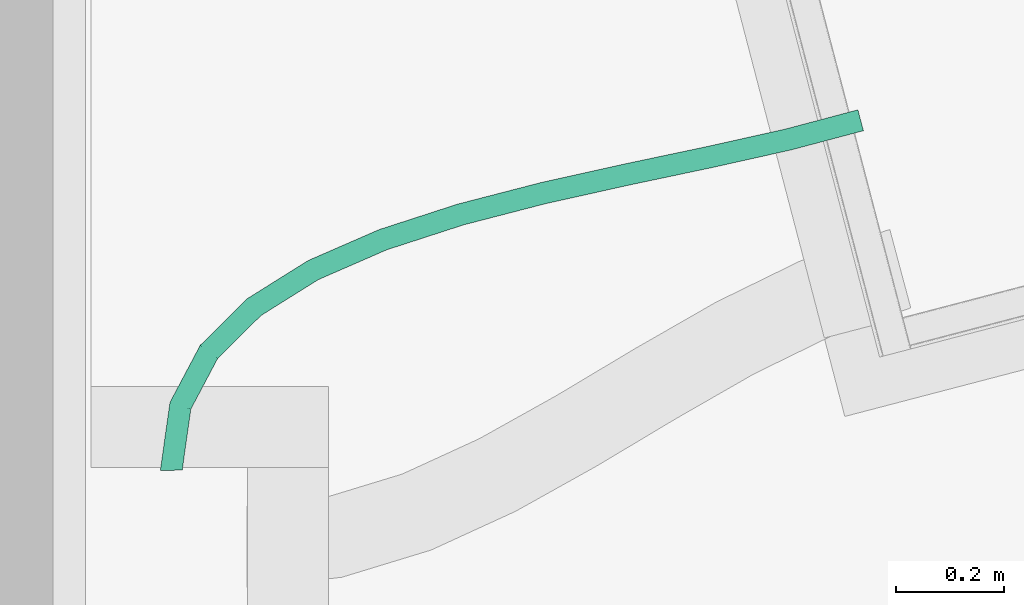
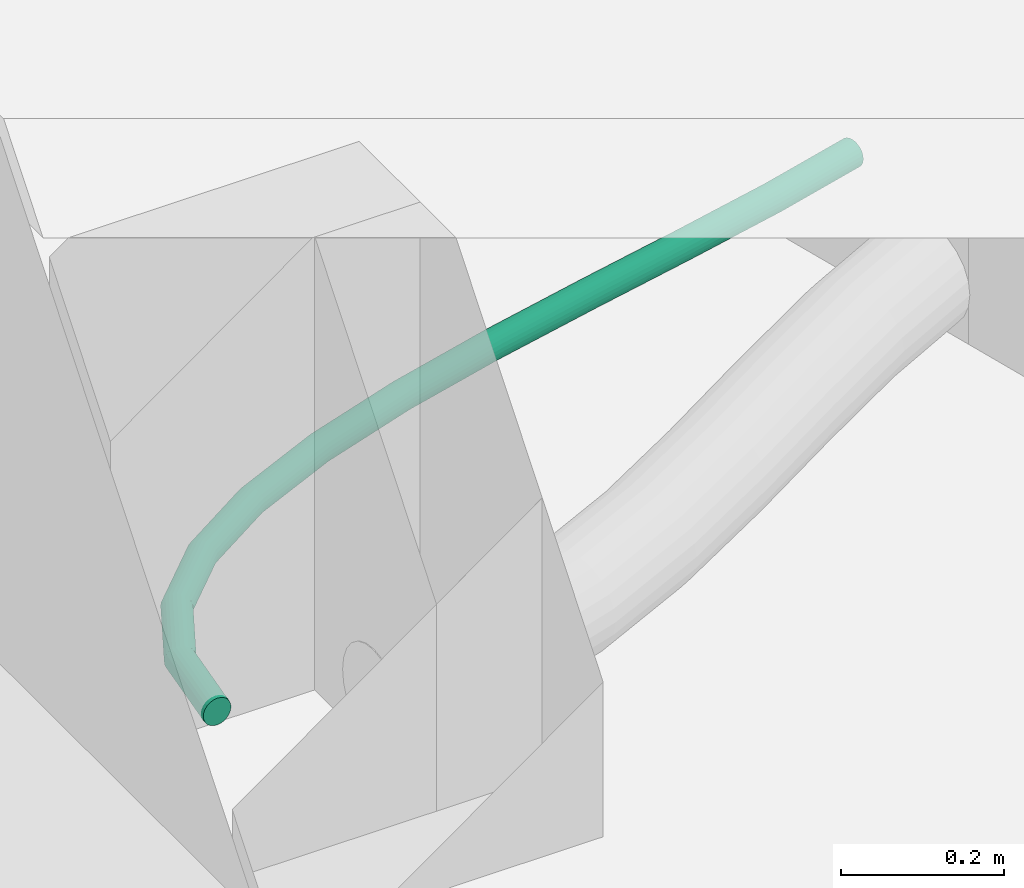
# One storey, part 20 of 29: 1 flow segment.
"""IFC2X3 building model written with IfcOpenShell, lengths in centimetres."""

from ifc_helpers import new_model, entity, si_unit, converted_unit, derived_unit, direction, frame, origin, place, context, subcontext, project, spatial, faceted_brep, type_object, element, save


model = new_model("IFC2X3")

# Units and contexts
model_context = context("Model", 3, precision=0.001, world=origin(), true_north=direction((6.12303176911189e-17, 1.0)))
body_context = subcontext(model_context, "Body", "Model", "MODEL_VIEW")
ifc_project = project(units=[si_unit("LENGTHUNIT", "METRE", prefix="CENTI"), si_unit("AREAUNIT", "SQUARE_METRE"), si_unit("VOLUMEUNIT", "CUBIC_METRE"), converted_unit("PLANEANGLEUNIT", "DEGREE", entity("IfcRatioMeasure", 0.0174532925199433), si_unit("PLANEANGLEUNIT", "RADIAN"), dimensions=[0, 0, 0, 0, 0, 0, 0]), si_unit("MASSUNIT", "GRAM", prefix="KILO"), derived_unit("MASSDENSITYUNIT", [(si_unit("MASSUNIT", "GRAM", prefix="KILO"), 1), (si_unit("LENGTHUNIT", "METRE"), -3)]), si_unit("TIMEUNIT", "SECOND"), si_unit("FREQUENCYUNIT", "HERTZ"), si_unit("THERMODYNAMICTEMPERATUREUNIT", "DEGREE_CELSIUS"), derived_unit("THERMALTRANSMITTANCEUNIT", [(si_unit("MASSUNIT", "GRAM", prefix="KILO"), 1), (si_unit("THERMODYNAMICTEMPERATUREUNIT", "KELVIN"), -1), (si_unit("TIMEUNIT", "SECOND"), -3)]), derived_unit("VOLUMETRICFLOWRATEUNIT", [(si_unit("LENGTHUNIT", "METRE"), 3), (si_unit("TIMEUNIT", "SECOND"), -1)]), si_unit("ELECTRICCURRENTUNIT", "AMPERE"), si_unit("ELECTRICVOLTAGEUNIT", "VOLT"), si_unit("POWERUNIT", "WATT"), si_unit("FORCEUNIT", "NEWTON"), si_unit("ILLUMINANCEUNIT", "LUX"), si_unit("LUMINOUSFLUXUNIT", "LUMEN"), si_unit("LUMINOUSINTENSITYUNIT", "CANDELA"), derived_unit("USERDEFINED", [(si_unit("MASSUNIT", "GRAM", prefix="KILO"), -1), (si_unit("LENGTHUNIT", "METRE"), -2), (si_unit("TIMEUNIT", "SECOND"), 3), (si_unit("LUMINOUSFLUXUNIT", "LUMEN"), 1)]), derived_unit("LINEARVELOCITYUNIT", [(si_unit("LENGTHUNIT", "METRE"), 1), (si_unit("TIMEUNIT", "SECOND"), -1)]), si_unit("PRESSUREUNIT", "PASCAL"), derived_unit("USERDEFINED", [(si_unit("LENGTHUNIT", "METRE"), -2), (si_unit("MASSUNIT", "GRAM", prefix="KILO"), 1), (si_unit("TIMEUNIT", "SECOND"), -2)])], contexts=[model_context])

# Site, building, storey
site_placement = place(None, origin())
site = spatial("IfcSite", under=ifc_project, at=site_placement, Name="Default", CompositionType="ELEMENT")
building_placement = place(site_placement, origin())
building = spatial("IfcBuilding", under=site, at=building_placement, Name="CAGE 03", CompositionType="ELEMENT")
storey_placement = place(building_placement, frame((0.0, 0.0, -34.0)))
storey = spatial("IfcBuildingStorey", under=building, at=storey_placement, Name="+3.66", CompositionType="ELEMENT", Elevation=-34.0000000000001)

# Flow segment
pipe_segment_type = type_object("IfcPipeSegmentType", Name="Canalisation souple arrondie:Flex - Round", PredefinedType="FLEXIBLESEGMENT")
flow_segment_placement = place(storey_placement, frame((11260.0900405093, 3681.77041660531, -80.1601177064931)))
element("IfcFlowSegment", 1, at=flow_segment_placement, inside=storey, type_object=pipe_segment_type, Name="Canalisation souple arrondie:Flex - Round", ObjectType="Canalisation souple arrondie:Flex - Round", context=body_context, shape_type="Brep", body=[
    faceted_brep([(129.336215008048, 66.3507469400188, 0.745313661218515), (129.254604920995, 66.6579281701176, 1.15952722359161), (129.203302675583, 66.8510303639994, 1.64188913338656), (129.185804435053, 66.9168939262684, 2.15952722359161), (129.203302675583, 66.8510303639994, 2.67716531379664), (129.254604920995, 66.6579281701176, 3.1595272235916), (129.336215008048, 66.3507469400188, 3.5737407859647), (129.442571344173, 65.9504205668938, 3.89157803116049), (129.566425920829, 65.4842306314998, 4.09137887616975), (129.699338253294, 64.9839472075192, 4.15952722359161), (129.832250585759, 64.4836637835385, 4.09137887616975), (129.956105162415, 64.0174738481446, 3.89157803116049), (130.062461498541, 63.6171474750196, 3.5737407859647), (130.144071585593, 63.3099662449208, 3.15952722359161), (130.195373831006, 63.116864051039, 2.67716531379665), (130.212872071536, 63.05100048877, 2.15952722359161), (130.195373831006, 63.116864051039, 1.64188913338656), (130.144071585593, 63.3099662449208, 1.15952722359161), (130.062461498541, 63.6171474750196, 0.745313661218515), (129.956105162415, 64.0174738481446, 0.427476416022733), (129.832250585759, 64.4836637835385, 0.227675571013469), (129.699338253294, 64.9839472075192, 0.159527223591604), (129.566425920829, 65.4842306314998, 0.227675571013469), (129.442571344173, 65.9504205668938, 0.427476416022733), (116.884993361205, 59.5101287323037, 2.15952722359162), (116.868804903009, 59.5763402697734, 1.64188913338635), (116.821342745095, 59.7704626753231, 1.15952722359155), (116.74584135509, 60.0792668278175, 0.745313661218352), (116.647446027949, 60.4817082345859, 0.427476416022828), (116.532862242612, 60.9503611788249, 0.227675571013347), (116.409898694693, 61.4532877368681, 0.159527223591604), (116.286935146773, 61.9562142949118, 0.227675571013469), (116.172351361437, 62.4248672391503, 0.427476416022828), (116.073956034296, 62.8273086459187, 0.745313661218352), (115.99845464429, 63.1361127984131, 1.15952722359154), (115.950992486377, 63.3302352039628, 1.64188913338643), (115.934804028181, 63.3964467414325, 2.15952722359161), (115.950992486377, 63.3302352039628, 2.67716531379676), (115.99845464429, 63.1361127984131, 3.15952722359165), (116.073956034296, 62.8273086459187, 3.57374078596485), (116.286935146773, 61.9562142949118, 4.09137887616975), (116.409898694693, 61.4532877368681, 4.15952722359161), (116.172351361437, 62.4248672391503, 3.89157803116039), (116.532862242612, 60.9503611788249, 4.09137887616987), (116.647446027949, 60.4817082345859, 3.8915780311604), (116.74584135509, 60.0792668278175, 3.57374078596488), (116.821342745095, 59.7704626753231, 3.15952722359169), (116.868804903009, 59.5763402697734, 2.67716531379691), (0.436507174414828, 0.166576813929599, 1.15952722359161), (0.754234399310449, 0.174938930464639, 0.745313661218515), (1.16830458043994, 0.185836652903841, 0.427476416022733), (1.65049951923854, 0.198527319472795, 0.227675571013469), (2.167958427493, 0.212146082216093, 0.159527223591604), (2.68541733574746, 0.225764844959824, 0.227675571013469), (3.16761227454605, 0.238455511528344, 0.427476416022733), (3.58168245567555, 0.249353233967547, 0.745313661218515), (3.89940968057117, 0.25771535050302, 1.15952722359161), (4.09914136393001, 0.262971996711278, 1.64188913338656), (4.13552086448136, 0.263929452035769, 1.91831455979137), (4.16726612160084, 0.264764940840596, 2.15952722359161), (4.09914136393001, 0.262971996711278, 2.67716531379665), (3.89940968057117, 0.25771535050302, 3.15952722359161), (3.58168245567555, 0.249353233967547, 3.5737407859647), (3.16761227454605, 0.238455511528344, 3.89157803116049), (2.68541733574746, 0.225764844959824, 4.09137887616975), (2.167958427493, 0.212146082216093, 4.15952722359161), (1.65049951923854, 0.198527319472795, 4.09137887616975), (1.16830458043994, 0.185836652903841, 3.89157803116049), (0.754234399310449, 0.174938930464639, 3.5737407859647), (0.436507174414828, 0.166576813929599, 3.1595272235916), (0.236775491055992, 0.161320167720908, 2.67716531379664), (0.168650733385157, 0.159527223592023, 2.15952722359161), (0.236775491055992, 0.161320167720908, 1.64188913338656), (102.236363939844, 56.2358240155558, 2.15952722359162), (102.221892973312, 56.3024194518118, 1.64188913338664), (102.179466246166, 56.4976673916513, 1.15952722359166), (102.111975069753, 56.8082620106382, 0.745313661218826), (102.024018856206, 57.2130367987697, 0.427476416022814), (101.921591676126, 57.6844070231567, 0.227675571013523), (101.811673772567, 58.1902495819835, 0.15952722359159), (101.701755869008, 58.69609214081, 0.227675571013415), (101.599328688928, 59.1674623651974, 0.427476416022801), (101.511372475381, 59.5722371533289, 0.745313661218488), (101.443881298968, 59.8828317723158, 1.15952722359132), (101.401454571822, 60.0780797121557, 1.64188913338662), (101.386983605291, 60.1446751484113, 2.1595272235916), (101.401454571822, 60.0780797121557, 2.67716531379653), (101.443881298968, 59.8828317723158, 3.15952722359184), (101.511372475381, 59.5722371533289, 3.57374078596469), (101.701755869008, 58.69609214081, 4.09137887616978), (101.811673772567, 58.1902495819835, 4.1595272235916), (101.599328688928, 59.1674623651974, 3.89157803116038), (101.921591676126, 57.6844070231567, 4.09137887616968), (102.024018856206, 57.2130367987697, 3.8915780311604), (102.111975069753, 56.8082620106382, 3.57374078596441), (102.179466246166, 56.4976673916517, 3.15952722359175), (102.221892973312, 56.3024194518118, 2.6771653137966), (86.8634480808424, 53.0604598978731, 1.64188913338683), (86.821098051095, 53.2557240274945, 1.15952722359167), (86.877892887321, 52.9938589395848, 2.15952722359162), (86.7537288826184, 53.5663444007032, 0.745313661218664), (86.5636896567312, 54.4425620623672, 0.227675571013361), (86.453970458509, 54.9484465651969, 0.15952722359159), (86.665931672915, 53.9711527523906, 0.427476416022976), (86.3442512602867, 55.4543310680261, 0.227675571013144), (86.242009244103, 55.9257403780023, 0.427476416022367), (86.1542120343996, 56.3305487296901, 0.745313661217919), (86.086842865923, 56.6411691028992, 1.15952722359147), (86.0444928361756, 56.8364332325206, 1.6418891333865), (86.0300480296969, 56.903034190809, 2.1595272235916), (86.0444928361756, 56.8364332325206, 2.67716531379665), (86.086842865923, 56.6411691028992, 3.15952722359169), (86.1542120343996, 56.3305487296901, 3.57374078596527), (86.242009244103, 55.9257403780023, 3.89157803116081), (86.3442512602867, 55.4543310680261, 4.09137887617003), (86.453970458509, 54.9484465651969, 4.1595272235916), (86.5636896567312, 54.4425620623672, 4.09137887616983), (86.665931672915, 53.9711527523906, 3.89157803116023), (86.7537288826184, 53.5663444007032, 3.57374078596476), (86.821098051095, 53.2557240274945, 3.15952722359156), (86.8634480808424, 53.0604598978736, 2.6771653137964), (71.338045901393, 49.6029644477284, 1.64188913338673), (71.2913031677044, 49.7972503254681, 1.15952722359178), (71.3539889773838, 49.5366971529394, 2.15952722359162), (71.2169462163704, 50.1063145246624, 0.745313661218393), (71.007195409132, 50.9781424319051, 0.227675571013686), (70.8860957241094, 51.48149250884, 0.159527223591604), (71.1200423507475, 50.5090948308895, 0.427476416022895), (70.7649960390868, 51.9848425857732, 0.227675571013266), (70.6521490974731, 52.4538901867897, 0.427476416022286), (70.5552452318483, 52.8566704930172, 0.745313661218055), (70.4808882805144, 53.165734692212, 1.1595272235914), (70.4341455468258, 53.3600205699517, 1.64188913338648), (70.418202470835, 53.4262878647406, 2.15952722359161), (70.4341455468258, 53.3600205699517, 2.67716531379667), (70.4808882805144, 53.165734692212, 3.15952722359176), (70.5552452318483, 52.8566704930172, 3.57374078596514), (70.6521490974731, 52.4538901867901, 3.89157803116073), (70.7649960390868, 51.9848425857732, 4.09137887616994), (70.8860957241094, 51.48149250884, 4.15952722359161), (71.007195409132, 50.9781424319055, 4.09137887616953), (71.1200423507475, 50.5090948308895, 3.89157803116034), (71.2169462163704, 50.1063145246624, 3.57374078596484), (71.2913031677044, 49.7972503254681, 3.15952722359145), (71.338045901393, 49.6029644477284, 2.67716531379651), (56.198022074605, 45.6874169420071, 1.64188913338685), (56.1421039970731, 45.8793298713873, 1.15952722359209), (56.2170946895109, 45.6219590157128, 2.15952722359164), (56.0531511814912, 46.1846192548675, 0.745313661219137), (55.8022274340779, 47.0457989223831, 0.227675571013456), (55.6573565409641, 47.543001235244, 0.15952722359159), (55.9372256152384, 46.5824801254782, 0.427476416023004), (55.5124856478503, 48.0402035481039, 0.227675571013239), (55.3774874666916, 48.5035223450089, 0.427476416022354), (55.2615619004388, 48.9013832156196, 0.745313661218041), (55.1726090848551, 49.2066725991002, 1.15952722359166), (55.1166910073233, 49.3985855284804, 1.6418891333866), (55.0976183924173, 49.4640434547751, 2.1595272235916), (55.1166910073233, 49.3985855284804, 2.67716531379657), (55.1726090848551, 49.2066725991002, 3.15952722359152), (55.2615619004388, 48.9013832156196, 3.57374078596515), (55.3774874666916, 48.5035223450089, 3.89157803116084), (55.5124856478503, 48.0402035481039, 4.09137887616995), (55.6573565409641, 47.543001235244, 4.1595272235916), (55.8022274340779, 47.0457989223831, 4.09137887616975), (55.9372256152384, 46.5824801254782, 3.89157803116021), (56.0531511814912, 46.1846192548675, 3.57374078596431), (56.1421039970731, 45.8793298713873, 3.15952722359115), (56.198022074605, 45.6874169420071, 2.67716531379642), (42.002749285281, 41.078092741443, 1.64188913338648), (41.9318321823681, 41.2651353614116, 1.1595272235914), (42.0269377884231, 41.0142959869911, 2.15952722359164), (41.8190193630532, 41.5626772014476, 0.745313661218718), (41.5007898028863, 42.4020021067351, 0.227675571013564), (41.3170598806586, 42.8865865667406, 0.15952722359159), (41.6719988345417, 41.9504412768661, 0.427476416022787), (41.1333299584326, 43.3711710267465, 0.22767557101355), (40.9621209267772, 43.8227318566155, 0.427476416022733), (40.8151003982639, 44.2104959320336, 0.74531366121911), (40.7022875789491, 44.50803777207, 1.15952722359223), (40.6313704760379, 44.6950803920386, 1.64188913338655), (40.6071819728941, 44.7588771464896, 2.1595272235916), (40.6313704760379, 44.6950803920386, 2.67716531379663), (40.7022875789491, 44.50803777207, 3.15952722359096), (40.8151003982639, 44.2104959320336, 3.57374078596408), (40.9621209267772, 43.8227318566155, 3.89157803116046), (41.1333299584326, 43.3711710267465, 4.09137887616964), (41.3170598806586, 42.8865865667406, 4.1595272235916), (41.5007898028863, 42.4020021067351, 4.09137887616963), (41.6719988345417, 41.9504412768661, 3.89157803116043), (41.8190193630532, 41.5626772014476, 3.57374078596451), (41.9318321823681, 41.2651353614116, 3.15952722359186), (42.002749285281, 41.078092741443, 2.67716531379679), (29.3176820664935, 35.5521090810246, 1.64188913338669), (29.2242722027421, 35.7293532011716, 1.15952722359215), (29.3495424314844, 35.491654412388, 2.15952722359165), (29.0756785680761, 36.0113078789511, 0.745313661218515), (28.6565162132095, 36.8066635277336, 0.227675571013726), (28.4145127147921, 37.2658623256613, 0.159527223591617), (28.8820275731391, 36.3787583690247, 0.427476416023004), (28.1725092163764, 37.7250611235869, 0.227675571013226), (27.9469978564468, 38.1529662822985, 0.427476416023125), (27.7533468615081, 38.5204167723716, 0.745313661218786), (27.6047532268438, 38.8023714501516, 1.15952722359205), (27.5113433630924, 38.9796155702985, 1.64188913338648), (27.4794829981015, 39.0400702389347, 2.15952722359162), (27.5113433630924, 38.9796155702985, 2.67716531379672), (27.6047532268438, 38.8023714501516, 3.15952722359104), (27.7533468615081, 38.5204167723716, 3.57374078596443), (27.9469978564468, 38.1529662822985, 3.89157803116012), (28.1725092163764, 37.7250611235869, 4.09137887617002), (28.4145127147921, 37.2658623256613, 4.15952722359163), (28.6565162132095, 36.8066635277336, 4.09137887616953), (28.8820275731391, 36.3787583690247, 3.89157803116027), (29.0756785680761, 36.0113078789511, 3.57374078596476), (29.2242722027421, 35.7293532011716, 3.15952722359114), (29.3176820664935, 35.5521090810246, 2.67716531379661), (18.7053864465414, 28.91044262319, 1.64188913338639), (18.5806187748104, 29.0680615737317, 1.15952722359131), (18.7479423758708, 28.8566817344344, 2.15952722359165), (18.3821420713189, 29.3187971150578, 0.745313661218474), (17.8222663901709, 30.026087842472, 0.227675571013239), (17.4990220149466, 30.4344423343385, 0.159527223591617), (18.1234821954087, 29.6455620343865, 0.427476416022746), (17.1757776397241, 30.842796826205, 0.22767557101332), (16.8745618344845, 31.2233226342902, 0.427476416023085), (16.6159019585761, 31.5500875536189, 0.745313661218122), (16.4174252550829, 31.800823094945, 1.15952722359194), (16.2926575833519, 31.9584420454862, 1.6418891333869), (16.2501016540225, 32.0122029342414, 2.15952722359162), (16.2926575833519, 31.9584420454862, 2.6771653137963), (16.4174252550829, 31.800823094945, 3.15952722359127), (16.6159019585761, 31.5500875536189, 3.57374078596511), (16.8745618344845, 31.2233226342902, 3.89157803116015), (17.1757776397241, 30.842796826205, 4.09137887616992), (17.4990220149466, 30.4344423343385, 4.15952722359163), (17.8222663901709, 30.026087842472, 4.09137887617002), (18.1234821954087, 29.6455620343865, 3.89157803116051), (18.3821420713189, 29.3187971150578, 3.5737407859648), (18.5806187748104, 29.0680615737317, 3.15952722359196), (18.7053864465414, 28.91044262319, 2.67716531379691), (10.6886150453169, 20.9803774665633, 1.6418891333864), (10.526370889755, 21.1009252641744, 1.15952722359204), (10.7439535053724, 20.939260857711, 2.15952722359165), (10.2682777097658, 21.2926891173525, 0.745313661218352), (9.54023208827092, 21.833628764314, 0.227675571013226), (9.11989475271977, 22.1459404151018, 0.159527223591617), (9.93192412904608, 21.542600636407, 0.427476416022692), (8.69955741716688, 22.458252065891, 0.227675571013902), (8.30786537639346, 22.7492801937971, 0.427476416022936), (7.97151179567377, 22.9991917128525, 0.745313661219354), (7.71341861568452, 23.1909555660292, 1.15952722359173), (7.55117446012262, 23.3115033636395, 1.64188913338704), (7.49583600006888, 23.3526199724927, 2.15952722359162), (7.55117446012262, 23.3115033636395, 2.67716531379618), (7.71341861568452, 23.1909555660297, 3.15952722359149), (7.97151179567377, 22.9991917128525, 3.57374078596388), (8.30786537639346, 22.7492801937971, 3.89157803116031), (8.69955741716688, 22.458252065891, 4.09137887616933), (9.11989475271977, 22.1459404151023, 4.15952722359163), (9.54023208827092, 21.833628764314, 4.09137887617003), (9.93192412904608, 21.542600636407, 3.89157803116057), (10.2682777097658, 21.2926891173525, 3.57374078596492), (10.526370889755, 21.1009252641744, 3.15952722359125), (10.6886150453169, 20.9803774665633, 2.6771653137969), (5.69189755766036, 11.5485349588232, 1.64188913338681), (5.49896327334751, 11.6111518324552, 1.1595272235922), (5.7577038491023, 11.5271775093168, 2.15952722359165), (5.19204914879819, 11.7107608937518, 0.74531366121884), (4.32628630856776, 11.9917444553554, 0.227675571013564), (3.82643789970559, 12.153970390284, 0.159527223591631), (4.79207087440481, 11.8405739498, 0.427476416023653), (3.32658949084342, 12.316196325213, 0.227675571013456), (2.86080492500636, 12.4673668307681, 0.427476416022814), (2.46082665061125, 12.5971798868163, 0.745313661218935), (2.15391252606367, 12.6967889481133, 1.15952722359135), (1.96097824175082, 12.7594058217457, 1.64188913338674), (1.89517195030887, 12.7807632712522, 2.15952722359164), (1.96097824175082, 12.7594058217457, 2.67716531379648), (2.15391252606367, 12.6967889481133, 3.15952722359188), (2.46082665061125, 12.5971798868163, 3.57374078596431), (2.86080492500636, 12.4673668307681, 3.89157803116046), (3.32658949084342, 12.316196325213, 4.09137887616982), (3.82643789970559, 12.153970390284, 4.15952722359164), (4.32628630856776, 11.9917444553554, 4.09137887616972), (4.79207087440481, 11.8405739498, 3.89157803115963), (5.19204914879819, 11.7107608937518, 3.57374078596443), (5.49896327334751, 11.6111518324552, 3.15952722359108), (5.69189755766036, 11.5485349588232, 2.67716531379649), (4.09866430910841, 0.281098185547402, 1.64188913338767), (3.89849324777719, 0.292536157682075, 1.15952722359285), (4.13558430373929, 0.272307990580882, 1.92047062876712), (3.58006707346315, 0.310731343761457, 0.745313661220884), (2.68183031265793, 0.36205747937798, 0.227675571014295), (2.16323307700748, 0.391690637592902, 0.159527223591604), (3.16508600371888, 0.334443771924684, 0.42747641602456), (1.64463584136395, 0.421323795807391, 0.227675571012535), (1.161380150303, 0.448937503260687, 0.427476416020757), (0.746399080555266, 0.472649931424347, 0.745313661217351), (0.427972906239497, 0.490845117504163, 1.15952722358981), (0.227801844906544, 0.502283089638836, 1.64188913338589), (0.15952722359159, 0.506184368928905, 2.15952722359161), (0.227801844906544, 0.502283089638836, 2.67716531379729), (0.427972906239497, 0.490845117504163, 3.15952722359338), (0.746399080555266, 0.472649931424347, 3.57374078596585), (1.161380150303, 0.448937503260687, 3.89157803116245), (1.64463584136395, 0.421323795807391, 4.09137887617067), (2.16323307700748, 0.391690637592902, 4.15952722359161), (2.68183031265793, 0.36205747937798, 4.09137887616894), (3.16508600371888, 0.334443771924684, 3.89157803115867), (3.58006707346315, 0.31073134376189, 3.57374078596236), (3.89849324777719, 0.292536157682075, 3.15952722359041), (4.09866430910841, 0.281098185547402, 2.6771653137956)], [[[0, 1, 2, 3, 4, 5, 6, 7, 8, 9, 10, 11, 12, 13, 14, 15, 16, 17, 18, 19, 20, 21, 22, 23]], [[15, 24, 25, 16]], [[16, 25, 26, 17]], [[17, 26, 27, 18]], [[18, 27, 28, 19]], [[19, 28, 29, 20]], [[30, 21, 20, 29]], [[31, 32, 23, 22]], [[30, 31, 22, 21]], [[23, 32, 33, 0]], [[34, 35, 2, 1]], [[34, 1, 0, 33]], [[36, 3, 2, 35]], [[37, 38, 5, 4]], [[36, 37, 4, 3]], [[38, 39, 6, 5]], [[40, 41, 9, 8]], [[42, 40, 8, 7]], [[39, 42, 7, 6]], [[10, 9, 41, 43]], [[11, 10, 43, 44]], [[44, 45, 12, 11]], [[14, 13, 46, 47]], [[15, 14, 47, 24]], [[45, 46, 13, 12]], [[48, 49, 50, 51, 52, 53, 54, 55, 56, 57, 58, 59, 60, 61, 62, 63, 64, 65, 66, 67, 68, 69, 70, 71, 72]], [[25, 24, 73, 74]], [[26, 25, 74, 75]], [[75, 76, 27, 26]], [[28, 27, 76, 77]], [[29, 28, 77, 78]], [[30, 29, 78, 79]], [[80, 81, 32, 31]], [[79, 80, 31, 30]], [[33, 32, 81, 82]], [[83, 84, 35, 34]], [[82, 83, 34, 33]], [[36, 35, 84, 85]], [[86, 87, 38, 37]], [[85, 86, 37, 36]], [[88, 39, 38, 87]], [[89, 90, 41, 40]], [[91, 89, 40, 42]], [[91, 42, 39, 88]], [[41, 90, 92, 43]], [[43, 92, 93, 44]], [[94, 45, 44, 93]], [[46, 95, 96, 47]], [[47, 96, 73, 24]], [[95, 46, 45, 94]], [[97, 98, 75, 74]], [[99, 97, 74, 73]], [[98, 100, 76, 75]], [[101, 102, 79, 78]], [[103, 101, 78, 77]], [[100, 103, 77, 76]], [[80, 79, 102, 104]], [[81, 80, 104, 105]], [[82, 81, 105, 106]], [[84, 83, 107, 108]], [[85, 84, 108, 109]], [[106, 107, 83, 82]], [[85, 109, 110, 86]], [[86, 110, 111, 87]], [[112, 88, 87, 111]], [[88, 112, 113, 91]], [[91, 113, 114, 89]], [[115, 90, 89, 114]], [[116, 117, 93, 92]], [[115, 116, 92, 90]], [[118, 94, 93, 117]], [[119, 120, 96, 95]], [[119, 95, 94, 118]], [[99, 73, 96, 120]], [[121, 122, 98, 97]], [[123, 121, 97, 99]], [[100, 98, 122, 124]], [[125, 126, 102, 101]], [[127, 125, 101, 103]], [[124, 127, 103, 100]], [[104, 102, 126, 128]], [[105, 104, 128, 129]], [[106, 105, 129, 130]], [[108, 107, 131, 132]], [[109, 108, 132, 133]], [[130, 131, 107, 106]], [[109, 133, 134, 110]], [[110, 134, 135, 111]], [[111, 135, 136, 112]], [[112, 136, 137, 113]], [[113, 137, 138, 114]], [[139, 115, 114, 138]], [[140, 141, 117, 116]], [[139, 140, 116, 115]], [[142, 118, 117, 141]], [[143, 144, 120, 119]], [[143, 119, 118, 142]], [[123, 99, 120, 144]], [[145, 146, 122, 121]], [[147, 145, 121, 123]], [[124, 122, 146, 148]], [[149, 150, 126, 125]], [[151, 149, 125, 127]], [[148, 151, 127, 124]], [[128, 126, 150, 152]], [[129, 128, 152, 153]], [[130, 129, 153, 154]], [[132, 131, 155, 156]], [[133, 132, 156, 157]], [[154, 155, 131, 130]], [[133, 157, 158, 134]], [[134, 158, 159, 135]], [[135, 159, 160, 136]], [[136, 160, 161, 137]], [[137, 161, 162, 138]], [[163, 139, 138, 162]], [[164, 165, 141, 140]], [[163, 164, 140, 139]], [[166, 142, 141, 165]], [[167, 168, 144, 143]], [[167, 143, 142, 166]], [[147, 123, 144, 168]], [[169, 170, 146, 145]], [[171, 169, 145, 147]], [[148, 146, 170, 172]], [[173, 174, 150, 149]], [[175, 173, 149, 151]], [[172, 175, 151, 148]], [[152, 150, 174, 176]], [[153, 152, 176, 177]], [[154, 153, 177, 178]], [[156, 155, 179, 180]], [[157, 156, 180, 181]], [[178, 179, 155, 154]], [[157, 181, 182, 158]], [[158, 182, 183, 159]], [[159, 183, 184, 160]], [[160, 184, 185, 161]], [[161, 185, 186, 162]], [[187, 163, 162, 186]], [[188, 189, 165, 164]], [[187, 188, 164, 163]], [[190, 166, 165, 189]], [[191, 192, 168, 167]], [[191, 167, 166, 190]], [[171, 147, 168, 192]], [[193, 194, 170, 169]], [[195, 193, 169, 171]], [[172, 170, 194, 196]], [[197, 198, 174, 173]], [[199, 197, 173, 175]], [[196, 199, 175, 172]], [[176, 174, 198, 200]], [[177, 176, 200, 201]], [[178, 177, 201, 202]], [[180, 179, 203, 204]], [[181, 180, 204, 205]], [[202, 203, 179, 178]], [[181, 205, 206, 182]], [[182, 206, 207, 183]], [[183, 207, 208, 184]], [[184, 208, 209, 185]], [[185, 209, 210, 186]], [[211, 187, 186, 210]], [[212, 213, 189, 188]], [[211, 212, 188, 187]], [[214, 190, 189, 213]], [[215, 216, 192, 191]], [[215, 191, 190, 214]], [[195, 171, 192, 216]], [[217, 218, 194, 193]], [[219, 217, 193, 195]], [[196, 194, 218, 220]], [[221, 222, 198, 197]], [[223, 221, 197, 199]], [[220, 223, 199, 196]], [[200, 198, 222, 224]], [[201, 200, 224, 225]], [[202, 201, 225, 226]], [[204, 203, 227, 228]], [[205, 204, 228, 229]], [[226, 227, 203, 202]], [[205, 229, 230, 206]], [[206, 230, 231, 207]], [[207, 231, 232, 208]], [[208, 232, 233, 209]], [[209, 233, 234, 210]], [[235, 211, 210, 234]], [[236, 237, 213, 212]], [[235, 236, 212, 211]], [[238, 214, 213, 237]], [[239, 240, 216, 215]], [[239, 215, 214, 238]], [[219, 195, 216, 240]], [[241, 242, 218, 217]], [[243, 241, 217, 219]], [[220, 218, 242, 244]], [[245, 246, 222, 221]], [[247, 245, 221, 223]], [[244, 247, 223, 220]], [[224, 222, 246, 248]], [[225, 224, 248, 249]], [[226, 225, 249, 250]], [[228, 227, 251, 252]], [[229, 228, 252, 253]], [[250, 251, 227, 226]], [[229, 253, 254, 230]], [[230, 254, 255, 231]], [[231, 255, 256, 232]], [[232, 256, 257, 233]], [[233, 257, 258, 234]], [[259, 235, 234, 258]], [[260, 261, 237, 236]], [[259, 260, 236, 235]], [[262, 238, 237, 261]], [[263, 264, 240, 239]], [[263, 239, 238, 262]], [[243, 219, 240, 264]], [[265, 266, 242, 241]], [[267, 265, 241, 243]], [[244, 242, 266, 268]], [[269, 270, 246, 245]], [[271, 269, 245, 247]], [[268, 271, 247, 244]], [[248, 246, 270, 272]], [[249, 248, 272, 273]], [[250, 249, 273, 274]], [[252, 251, 275, 276]], [[253, 252, 276, 277]], [[274, 275, 251, 250]], [[253, 277, 278, 254]], [[254, 278, 279, 255]], [[255, 279, 280, 256]], [[256, 280, 281, 257]], [[257, 281, 282, 258]], [[283, 259, 258, 282]], [[284, 285, 261, 260]], [[283, 284, 260, 259]], [[286, 262, 261, 285]], [[287, 288, 264, 263]], [[287, 263, 262, 286]], [[267, 243, 264, 288]], [[289, 290, 266, 265]], [[267, 59, 291, 289]], [[265, 267, 289]], [[292, 268, 266, 290]], [[293, 294, 270, 269]], [[295, 293, 269, 271]], [[295, 271, 268, 292]], [[270, 294, 296, 272]], [[272, 296, 297, 273]], [[298, 274, 273, 297]], [[275, 299, 300, 276]], [[276, 300, 301, 277]], [[299, 275, 274, 298]], [[278, 277, 301, 302]], [[279, 278, 302, 303]], [[303, 304, 280, 279]], [[281, 280, 304, 305]], [[282, 281, 305, 306]], [[283, 282, 306, 307]], [[308, 309, 285, 284]], [[307, 308, 284, 283]], [[286, 285, 309, 310]], [[311, 312, 288, 287]], [[310, 311, 287, 286]], [[267, 288, 312]], [[59, 267, 312]], [[291, 59, 58, 57, 289]], [[289, 57, 56, 290]], [[290, 56, 55, 292]], [[295, 54, 53, 293]], [[293, 53, 52, 294]], [[295, 292, 55, 54]], [[294, 52, 51, 296]], [[296, 51, 50, 297]], [[297, 50, 49, 298]], [[299, 48, 72, 300]], [[300, 72, 71, 301]], [[298, 49, 48, 299]], [[302, 301, 71, 70]], [[303, 302, 70, 69]], [[304, 303, 69, 68]], [[306, 305, 67, 66]], [[307, 306, 66, 65]], [[68, 67, 305, 304]], [[308, 307, 65, 64]], [[309, 308, 64, 63]], [[63, 62, 310, 309]], [[311, 310, 62, 61]], [[312, 311, 61, 60]], [[59, 312, 60]]]),
])

save(model, "model.ifc")
